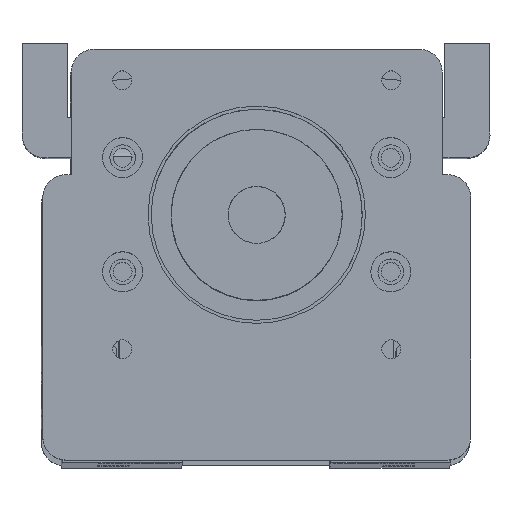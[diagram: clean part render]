
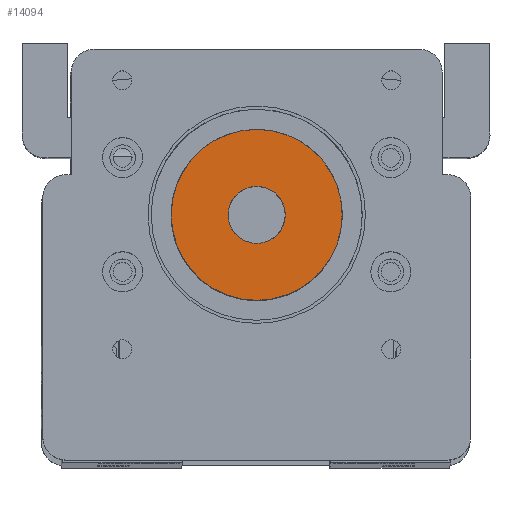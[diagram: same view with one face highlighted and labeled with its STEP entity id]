
A CAD part, top view. The second image highlights one B-rep face of the part: STEP entity #14094.
In plain terms, the highlighted planar face has unit normal (0, 0, 1).
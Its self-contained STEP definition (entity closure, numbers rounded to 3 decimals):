
#554 = CARTESIAN_POINT ( 'NONE',  ( -1.157, 0., 40.753 ) ) ;
#2334 = DIRECTION ( 'NONE',  ( 0., 0., 1. ) ) ;
#3378 = VERTEX_POINT ( 'NONE', #8723 ) ;
#3596 = EDGE_CURVE ( 'NONE', #35790, #34156, #17254, .T. ) ;
#3662 = PLANE ( 'NONE',  #11595 ) ;
#4292 = EDGE_CURVE ( 'NONE', #34156, #35790, #25609, .T. ) ;
#5833 = CARTESIAN_POINT ( 'NONE',  ( -6.16, 0., 40.753 ) ) ;
#8546 = CARTESIAN_POINT ( 'NONE',  ( -21.138, 0., 40.753 ) ) ;
#8723 = CARTESIAN_POINT ( 'NONE',  ( -11.163, 0., 40.753 ) ) ;
#9538 = EDGE_LOOP ( 'NONE', ( #17781, #15471 ) ) ;
#9950 = DIRECTION ( 'NONE',  ( 1., 0., 0. ) ) ;
#10093 = FACE_BOUND ( 'NONE', #44568, .T. ) ;
#10949 = DIRECTION ( 'NONE',  ( 0., 0., 1. ) ) ;
#11595 = AXIS2_PLACEMENT_3D ( 'NONE', #32431, #44679, #11930 ) ;
#11930 = DIRECTION ( 'NONE',  ( 1., 0., 0. ) ) ;
#14094 = ADVANCED_FACE ( 'NONE', ( #52521, #10093 ), #3662, .T. ) ;
#15471 = ORIENTED_EDGE ( 'NONE', *, *, #3596, .T. ) ;
#15799 = AXIS2_PLACEMENT_3D ( 'NONE', #26985, #2334, #31117 ) ;
#17254 = CIRCLE ( 'NONE', #51331, 14.978 ) ;
#17781 = ORIENTED_EDGE ( 'NONE', *, *, #4292, .T. ) ;
#19065 = CARTESIAN_POINT ( 'NONE',  ( -6.16, 0., 40.753 ) ) ;
#21445 = CARTESIAN_POINT ( 'NONE',  ( 8.817, 0., 40.753 ) ) ;
#23243 = DIRECTION ( 'NONE',  ( 1., 0., 0. ) ) ;
#25609 = CIRCLE ( 'NONE', #26237, 14.978 ) ;
#26162 = CIRCLE ( 'NONE', #15799, 5.003 ) ;
#26237 = AXIS2_PLACEMENT_3D ( 'NONE', #35596, #10949, #39738 ) ;
#26526 = ORIENTED_EDGE ( 'NONE', *, *, #30272, .F. ) ;
#26985 = CARTESIAN_POINT ( 'NONE',  ( -6.16, 0., 40.753 ) ) ;
#29428 = CIRCLE ( 'NONE', #31657, 5.003 ) ;
#30272 = EDGE_CURVE ( 'NONE', #3378, #52216, #29428, .T. ) ;
#30714 = EDGE_CURVE ( 'NONE', #52216, #3378, #26162, .T. ) ;
#31117 = DIRECTION ( 'NONE',  ( 1., 0., 0. ) ) ;
#31657 = AXIS2_PLACEMENT_3D ( 'NONE', #19065, #47893, #23243 ) ;
#32431 = CARTESIAN_POINT ( 'NONE',  ( -6.16, 0., 40.753 ) ) ;
#33444 = ORIENTED_EDGE ( 'NONE', *, *, #30714, .F. ) ;
#34156 = VERTEX_POINT ( 'NONE', #8546 ) ;
#34591 = DIRECTION ( 'NONE',  ( 0., 0., 1. ) ) ;
#35596 = CARTESIAN_POINT ( 'NONE',  ( -6.16, 0., 40.753 ) ) ;
#35790 = VERTEX_POINT ( 'NONE', #21445 ) ;
#39738 = DIRECTION ( 'NONE',  ( 1., 0., 0. ) ) ;
#44568 = EDGE_LOOP ( 'NONE', ( #26526, #33444 ) ) ;
#44679 = DIRECTION ( 'NONE',  ( 0., 0., 1. ) ) ;
#47893 = DIRECTION ( 'NONE',  ( 0., 0., 1. ) ) ;
#51331 = AXIS2_PLACEMENT_3D ( 'NONE', #5833, #34591, #9950 ) ;
#52216 = VERTEX_POINT ( 'NONE', #554 ) ;
#52521 = FACE_OUTER_BOUND ( 'NONE', #9538, .T. ) ;
